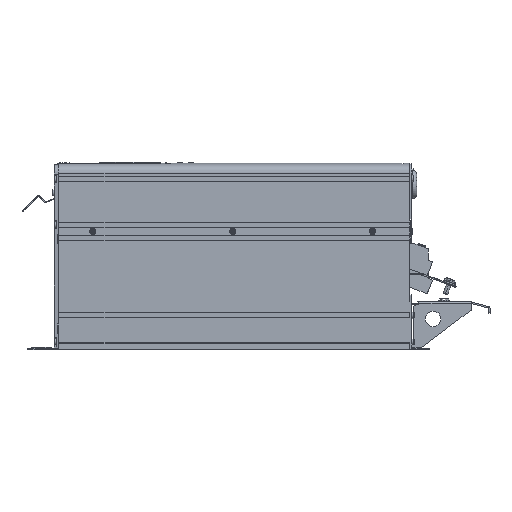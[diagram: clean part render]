
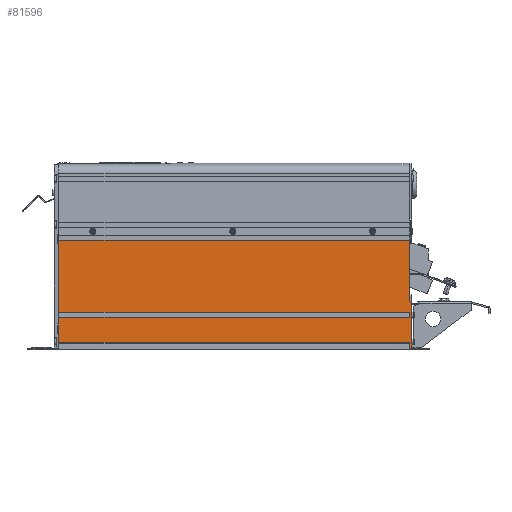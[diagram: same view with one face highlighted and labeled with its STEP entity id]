
A CAD part, left-side view. The second image highlights one B-rep face of the part: STEP entity #81596.
In plain terms, the highlighted planar face has unit normal (-1, 0, 0).
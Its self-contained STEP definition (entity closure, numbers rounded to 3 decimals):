
#341=DIRECTION('',(0.,0.,1.));
#342=VECTOR('',#341,8.);
#343=CARTESIAN_POINT('',(-115.,-227.95,1.1));
#344=LINE('',#343,#342);
#365=DIRECTION('',(0.,0.,1.));
#366=VECTOR('',#365,6.6);
#367=CARTESIAN_POINT('',(-115.,-227.95,42.1));
#368=LINE('',#367,#366);
#795=DIRECTION('',(0.,0.,1.));
#796=VECTOR('',#795,78.6);
#797=CARTESIAN_POINT('',(-115.,-227.95,62.5));
#798=LINE('',#797,#796);
#9845=DIRECTION('',(0.,-1.,0.));
#9846=VECTOR('',#9845,36.);
#9847=CARTESIAN_POINT('',(-115.,259.75,0.));
#9848=LINE('',#9847,#9846);
#9889=DIRECTION('',(0.,-1.,0.));
#9890=VECTOR('',#9889,460.);
#9891=CARTESIAN_POINT('',(-115.,211.75,0.));
#9892=LINE('',#9891,#9890);
#10017=DIRECTION('',(0.,1.,0.));
#10018=VECTOR('',#10017,12.);
#10019=CARTESIAN_POINT('',(-115.,211.75,1.));
#10020=LINE('',#10019,#10018);
#10021=DIRECTION('',(0.,0.,1.));
#10022=VECTOR('',#10021,1.);
#10023=CARTESIAN_POINT('',(-115.,223.75,0.));
#10024=LINE('',#10023,#10022);
#10025=DIRECTION('',(0.,-1.,0.));
#10026=VECTOR('',#10025,451.7);
#10027=CARTESIAN_POINT('',(-115.,223.75,1.1));
#10028=LINE('',#10027,#10026);
#10029=DIRECTION('',(0.,-1.,0.));
#10030=VECTOR('',#10029,451.7);
#10031=CARTESIAN_POINT('',(-115.,223.75,9.1));
#10032=LINE('',#10031,#10030);
#10033=DIRECTION('',(0.,0.,-1.));
#10034=VECTOR('',#10033,12.4);
#10035=CARTESIAN_POINT('',(-115.,223.75,21.5));
#10036=LINE('',#10035,#10034);
#10037=DIRECTION('',(0.,0.,-1.));
#10038=VECTOR('',#10037,8.6);
#10039=CARTESIAN_POINT('',(-115.,223.75,42.1));
#10040=LINE('',#10039,#10038);
#10041=DIRECTION('',(0.,-1.,0.));
#10042=VECTOR('',#10041,451.7);
#10043=CARTESIAN_POINT('',(-115.,223.75,42.1));
#10044=LINE('',#10043,#10042);
#10045=DIRECTION('',(0.,-1.,0.));
#10046=VECTOR('',#10045,451.7);
#10047=CARTESIAN_POINT('',(-115.,223.75,48.7));
#10048=LINE('',#10047,#10046);
#10049=DIRECTION('',(0.,0.,-1.));
#10050=VECTOR('',#10049,87.8);
#10051=CARTESIAN_POINT('',(-115.,223.75,136.5));
#10052=LINE('',#10051,#10050);
#10053=DIRECTION('',(0.,-1.,0.));
#10054=VECTOR('',#10053,451.7);
#10055=CARTESIAN_POINT('',(-115.,223.75,141.1));
#10056=LINE('',#10055,#10054);
#10057=DIRECTION('',(0.,-1.,0.));
#10058=VECTOR('',#10057,2.5);
#10059=CARTESIAN_POINT('',(-115.,-227.95,62.5));
#10060=LINE('',#10059,#10058);
#10061=DIRECTION('',(0.,0.,-1.));
#10062=VECTOR('',#10061,60.);
#10063=CARTESIAN_POINT('',(-115.,-230.45,62.5));
#10064=LINE('',#10063,#10062);
#10065=DIRECTION('',(0.,-1.,0.));
#10066=VECTOR('',#10065,17.8);
#10067=CARTESIAN_POINT('',(-115.,-230.45,2.5));
#10068=LINE('',#10067,#10066);
#10069=DIRECTION('',(0.,0.,1.));
#10070=VECTOR('',#10069,2.5);
#10071=CARTESIAN_POINT('',(-115.,-248.25,0.));
#10072=LINE('',#10071,#10070);
#10073=DIRECTION('',(0.,0.,1.));
#10074=VECTOR('',#10073,1.);
#10075=CARTESIAN_POINT('',(-115.,211.75,0.));
#10076=LINE('',#10075,#10074);
#10161=DIRECTION('',(0.,0.,-1.));
#10162=VECTOR('',#10161,12.);
#10163=CARTESIAN_POINT('',(-115.,223.75,33.5));
#10164=LINE('',#10163,#10162);
#10363=DIRECTION('',(0.,0.,-1.));
#10364=VECTOR('',#10363,4.6);
#10365=CARTESIAN_POINT('',(-115.,223.75,141.1));
#10366=LINE('',#10365,#10364);
#10423=DIRECTION('',(0.,0.,1.));
#10424=VECTOR('',#10423,1.4);
#10425=CARTESIAN_POINT('',(-115.,223.75,1.1));
#10426=LINE('',#10425,#10424);
#15506=DIRECTION('',(0.,1.,0.));
#15507=VECTOR('',#15506,33.);
#15508=CARTESIAN_POINT('',(-115.,226.75,2.5));
#15509=LINE('',#15508,#15507);
#24332=DIRECTION('',(0.,1.,0.));
#24333=VECTOR('',#24332,3.);
#24334=CARTESIAN_POINT('',(-115.,223.75,2.5));
#24335=LINE('',#24334,#24333);
#44804=DIRECTION('',(0.,0.,1.));
#44805=VECTOR('',#44804,2.5);
#44806=CARTESIAN_POINT('',(-115.,259.75,0.));
#44807=LINE('',#44806,#44805);
#55632=CARTESIAN_POINT('',(-115.,223.75,136.5));
#55633=VERTEX_POINT('',#55632);
#55704=CARTESIAN_POINT('',(-115.,223.75,21.5));
#55706=VERTEX_POINT('',#55704);
#55708=CARTESIAN_POINT('',(-115.,223.75,33.5));
#55710=VERTEX_POINT('',#55708);
#58221=CARTESIAN_POINT('',(-115.,223.75,9.1));
#58222=VERTEX_POINT('',#58221);
#58233=CARTESIAN_POINT('',(-115.,223.75,141.1));
#58234=VERTEX_POINT('',#58233);
#58245=CARTESIAN_POINT('',(-115.,-227.95,141.1));
#58246=VERTEX_POINT('',#58245);
#58309=CARTESIAN_POINT('',(-115.,259.75,0.));
#58311=VERTEX_POINT('',#58309);
#58319=CARTESIAN_POINT('',(-115.,259.75,2.5));
#58321=VERTEX_POINT('',#58319);
#58327=CARTESIAN_POINT('',(-115.,226.75,2.5));
#58328=VERTEX_POINT('',#58327);
#58333=CARTESIAN_POINT('',(-115.,223.75,1.1));
#58334=CARTESIAN_POINT('',(-115.,223.75,2.5));
#58335=VERTEX_POINT('',#58333);
#58336=VERTEX_POINT('',#58334);
#58365=CARTESIAN_POINT('',(-115.,-227.95,1.1));
#58366=CARTESIAN_POINT('',(-115.,-227.95,9.1));
#58367=VERTEX_POINT('',#58365);
#58368=VERTEX_POINT('',#58366);
#58405=CARTESIAN_POINT('',(-115.,-248.25,2.5));
#58407=VERTEX_POINT('',#58405);
#58411=CARTESIAN_POINT('',(-115.,-248.25,0.));
#58412=VERTEX_POINT('',#58411);
#58421=CARTESIAN_POINT('',(-115.,-230.45,2.5));
#58422=VERTEX_POINT('',#58421);
#58461=CARTESIAN_POINT('',(-115.,-227.95,62.5));
#58462=CARTESIAN_POINT('',(-115.,-230.45,62.5));
#58463=VERTEX_POINT('',#58461);
#58464=VERTEX_POINT('',#58462);
#59729=CARTESIAN_POINT('',(-115.,223.75,48.7));
#59730=VERTEX_POINT('',#59729);
#59735=CARTESIAN_POINT('',(-115.,223.75,42.1));
#59736=VERTEX_POINT('',#59735);
#59745=CARTESIAN_POINT('',(-115.,-227.95,42.1));
#59746=CARTESIAN_POINT('',(-115.,-227.95,48.7));
#59747=VERTEX_POINT('',#59745);
#59748=VERTEX_POINT('',#59746);
#63608=CARTESIAN_POINT('',(-115.,211.75,1.));
#63609=CARTESIAN_POINT('',(-115.,223.75,1.));
#63610=VERTEX_POINT('',#63608);
#63611=VERTEX_POINT('',#63609);
#63612=CARTESIAN_POINT('',(-115.,211.75,0.));
#63613=VERTEX_POINT('',#63612);
#63614=CARTESIAN_POINT('',(-115.,223.75,0.));
#63615=VERTEX_POINT('',#63614);
#81546=CARTESIAN_POINT('',(-115.,223.75,227.));
#81547=DIRECTION('',(-1.,0.,0.));
#81548=DIRECTION('',(0.,0.,-1.));
#81549=AXIS2_PLACEMENT_3D('',#81546,#81547,#81548);
#81550=PLANE('',#81549);
#81552=ORIENTED_EDGE('',*,*,#81551,.T.);
#81553=ORIENTED_EDGE('',*,*,#81448,.F.);
#81554=ORIENTED_EDGE('',*,*,#81312,.F.);
#81556=ORIENTED_EDGE('',*,*,#81555,.T.);
#81558=ORIENTED_EDGE('',*,*,#81557,.F.);
#81560=ORIENTED_EDGE('',*,*,#81559,.F.);
#81562=ORIENTED_EDGE('',*,*,#81561,.F.);
#81564=ORIENTED_EDGE('',*,*,#81563,.T.);
#81565=ORIENTED_EDGE('',*,*,#66285,.T.);
#81567=ORIENTED_EDGE('',*,*,#81566,.F.);
#81569=ORIENTED_EDGE('',*,*,#81568,.F.);
#81571=ORIENTED_EDGE('',*,*,#81570,.F.);
#81573=ORIENTED_EDGE('',*,*,#81572,.F.);
#81575=ORIENTED_EDGE('',*,*,#81574,.T.);
#81576=ORIENTED_EDGE('',*,*,#66331,.T.);
#81578=ORIENTED_EDGE('',*,*,#81577,.F.);
#81580=ORIENTED_EDGE('',*,*,#81579,.F.);
#81582=ORIENTED_EDGE('',*,*,#81581,.F.);
#81584=ORIENTED_EDGE('',*,*,#81583,.T.);
#81585=ORIENTED_EDGE('',*,*,#66416,.F.);
#81587=ORIENTED_EDGE('',*,*,#81586,.T.);
#81588=ORIENTED_EDGE('',*,*,#69930,.T.);
#81589=ORIENTED_EDGE('',*,*,#81133,.T.);
#81590=ORIENTED_EDGE('',*,*,#81183,.F.);
#81591=ORIENTED_EDGE('',*,*,#81349,.F.);
#81593=ORIENTED_EDGE('',*,*,#81592,.T.);
#81594=EDGE_LOOP('',(#81552,#81553,#81554,#81556,#81558,#81560,#81562,#81564,
#81565,#81567,#81569,#81571,#81573,#81575,#81576,#81578,#81580,#81582,#81584,
#81585,#81587,#81588,#81589,#81590,#81591,#81593));
#81595=FACE_OUTER_BOUND('',#81594,.F.);
#81596=ADVANCED_FACE('',(#81595),#81550,.T.);
#66285=EDGE_CURVE('',#58367,#58368,#344,.T.);
#66331=EDGE_CURVE('',#59747,#59748,#368,.T.);
#66416=EDGE_CURVE('',#58463,#58246,#798,.T.);
#69930=EDGE_CURVE('',#58464,#58422,#10064,.T.);
#81133=EDGE_CURVE('',#58422,#58407,#10068,.T.);
#81183=EDGE_CURVE('',#58412,#58407,#10072,.T.);
#81312=EDGE_CURVE('',#58311,#63615,#9848,.T.);
#81349=EDGE_CURVE('',#63613,#58412,#9892,.T.);
#81448=EDGE_CURVE('',#63615,#63611,#10024,.T.);
#81551=EDGE_CURVE('',#63610,#63611,#10020,.T.);
#81555=EDGE_CURVE('',#58311,#58321,#44807,.T.);
#81557=EDGE_CURVE('',#58328,#58321,#15509,.T.);
#81559=EDGE_CURVE('',#58336,#58328,#24335,.T.);
#81561=EDGE_CURVE('',#58335,#58336,#10426,.T.);
#81563=EDGE_CURVE('',#58335,#58367,#10028,.T.);
#81566=EDGE_CURVE('',#58222,#58368,#10032,.T.);
#81568=EDGE_CURVE('',#55706,#58222,#10036,.T.);
#81570=EDGE_CURVE('',#55710,#55706,#10164,.T.);
#81572=EDGE_CURVE('',#59736,#55710,#10040,.T.);
#81574=EDGE_CURVE('',#59736,#59747,#10044,.T.);
#81577=EDGE_CURVE('',#59730,#59748,#10048,.T.);
#81579=EDGE_CURVE('',#55633,#59730,#10052,.T.);
#81581=EDGE_CURVE('',#58234,#55633,#10366,.T.);
#81583=EDGE_CURVE('',#58234,#58246,#10056,.T.);
#81586=EDGE_CURVE('',#58463,#58464,#10060,.T.);
#81592=EDGE_CURVE('',#63613,#63610,#10076,.T.);
